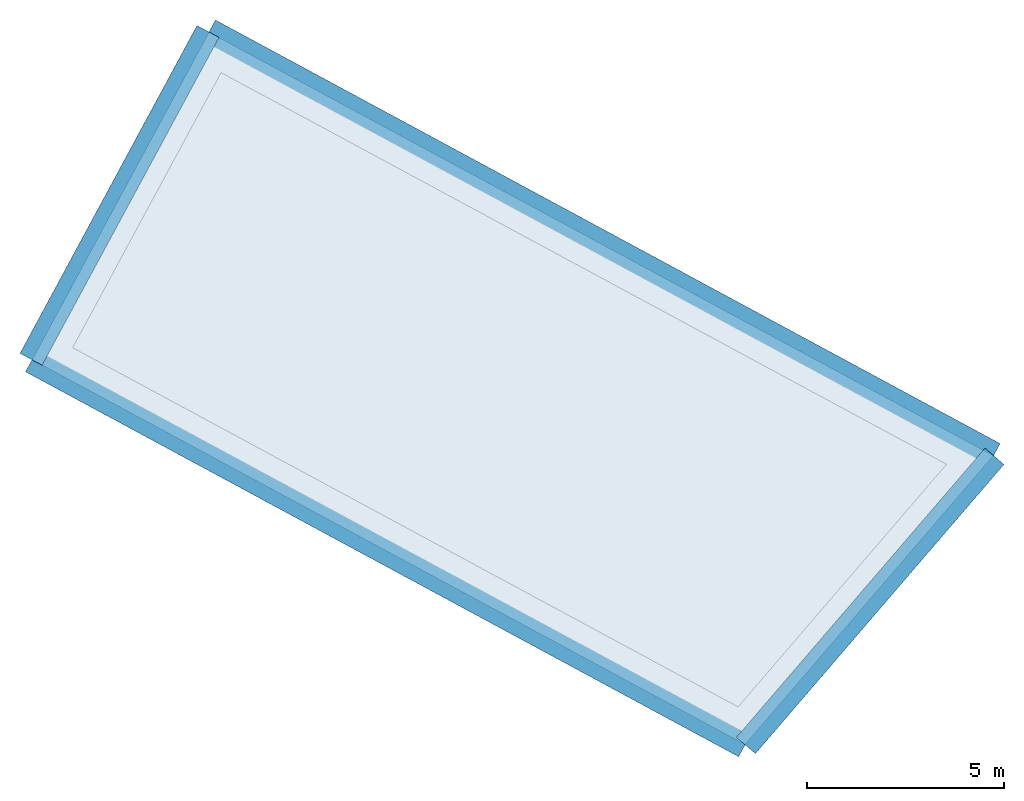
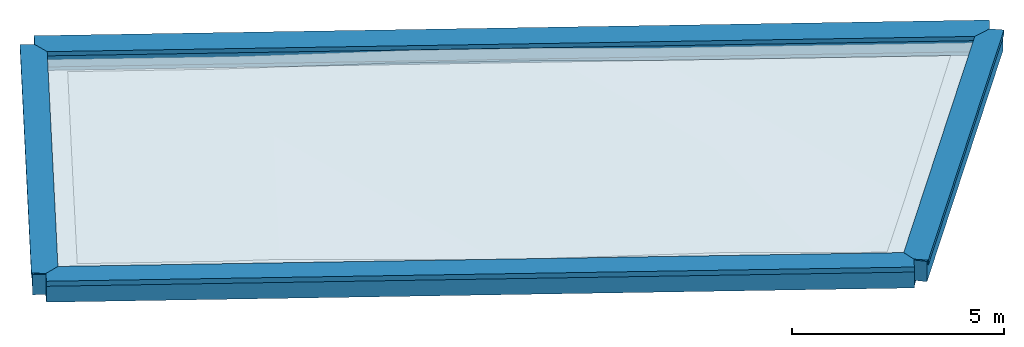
# One storey, part 1 of 3: 4 walls, 1 slab.
"""IFC2X3 building model written with IfcOpenShell, lengths in metres."""

from ifc_helpers import new_model, entity, si_unit, converted_unit, derived_unit, money_unit, direction, frame, origin_with_axes, place, context, subcontext, project, spatial, polyline, outline, composite_profile, extrude, material, material_list, layer, layer_set, layer_usage, type_object, element, save


model = new_model("IFC2X3")

# Units and contexts
model_context = context("Model", 3, precision=1e-05, world=origin_with_axes(), true_north=direction((0.0, 1.0)))
body_context = subcontext(model_context, "Body", "Model", "MODEL_VIEW")
ifc_project = project(units=[si_unit("LENGTHUNIT", "METRE"), si_unit("AREAUNIT", "SQUARE_METRE"), si_unit("VOLUMEUNIT", "CUBIC_METRE"), converted_unit("PLANEANGLEUNIT", "DEGREE", entity("IfcPlaneAngleMeasure", 0.0174532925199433), si_unit("PLANEANGLEUNIT", "RADIAN"), dimensions=[0, 0, 0, 0, 0, 0, 0]), money_unit("EUR"), converted_unit("TIMEUNIT", "Year", entity("IfcTimeMeasure", 31556926.0), si_unit("TIMEUNIT", "SECOND"), dimensions=[0, 0, 1, 0, 0, 0, 0]), si_unit("MASSUNIT", "GRAM", prefix="KILO"), si_unit("THERMODYNAMICTEMPERATUREUNIT", "DEGREE_CELSIUS"), si_unit("LUMINOUSINTENSITYUNIT", "LUMEN"), si_unit("ENERGYUNIT", "JOULE", prefix="MEGA"), derived_unit("THERMALCONDUCTANCEUNIT", [(si_unit("POWERUNIT", "WATT"), 1), (si_unit("LENGTHUNIT", "METRE"), -1), (si_unit("THERMODYNAMICTEMPERATUREUNIT", "KELVIN"), -1)]), derived_unit("SPECIFICHEATCAPACITYUNIT", [(si_unit("ENERGYUNIT", "JOULE"), 1), (si_unit("MASSUNIT", "GRAM", prefix="KILO"), -1), (si_unit("THERMODYNAMICTEMPERATUREUNIT", "KELVIN"), -1)]), derived_unit("MASSDENSITYUNIT", [(si_unit("MASSUNIT", "GRAM", prefix="KILO"), 1), (si_unit("VOLUMEUNIT", "CUBIC_METRE"), -1)])], contexts=[model_context])

# Site, building, storey
site_placement = place(None, frame((-3.949935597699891, 1.740105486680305, 0.0), z_axis=(0.0, 0.0, 1.0), x_axis=(0.8799804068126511, -0.475009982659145, 0.0)))
site = spatial("IfcSite", under=ifc_project, at=site_placement, Name="Gelände", CompositionType="ELEMENT")
building_placement = place(site_placement, origin_with_axes())
building = spatial("IfcBuilding", under=site, at=building_placement, Name="Gebäude", CompositionType="ELEMENT")
storey_placement = place(building_placement, frame((0.0, 0.0, 7.904999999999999), z_axis=(0.0, 0.0, 1.0), x_axis=(1.0, 0.0, 0.0)))
storey = spatial("IfcBuildingStorey", under=building, at=storey_placement, Name="Dachaufsicht", CompositionType="ELEMENT", Elevation=7.905)

# Slab
ifc_material_1 = material(Name="_SIWH - Beton, Stahlbeton")
ifc_layer = layer(ifc_material_1, 0.2, ventilated="UNKNOWN")
ifc_layer_set = layer_set([ifc_layer], Name="_SIWH - Beton, Stahlbeton 0.2")
ifc_layer_usage = layer_usage(ifc_layer_set, "AXIS3", "NEGATIVE", 0.2)
slab_type = type_object("IfcSlabType", Name="_SIWH - Beton, Stahlbeton 200", PredefinedType="FLOOR")
slab_placement = place(storey_placement, frame((5.397480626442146, 1.424987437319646, -0.391), z_axis=(0.0, 0.0, 1.0), x_axis=(1.0, 0.0, 0.0)))
element("IfcSlab", 1, at=slab_placement, inside=storey, type_object=slab_type, material=ifc_layer_usage, Name="Decke030", PredefinedType="FLOOR", context=body_context, shape_type="SweptSolid", body=[
    extrude(outline(polyline([(0.0, 0.0), (20.51864681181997, 0.0), (22.5788528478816, 9.43281358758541), (0.0, 9.43281358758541), (0.0, 0.0)])), origin_with_axes(), (0.0, 0.0, 1.0), 0.2),
])

# Walls
ifc_material_2 = material(Name="_SIWH - Dämmung, weich Mineralwolle")
ifc_material_3 = material(Name="_SIWH - Dämmung, hart Mineralwolle")
ifc_material_4 = material(Name="_SIWH - MW Vormauerziegel")
ifc_material_5 = material(Name="_SIWH - Luftschicht vertikal")
ifc_material_6 = material(Name="_SIWH - Holz, Bauholz")
ifc_material_7 = material(Name="_SIWH - Metall, Aluminium")
ifc_material_list = material_list([ifc_material_2, ifc_material_3, ifc_material_4, ifc_material_1, ifc_material_5, ifc_material_6, ifc_material_7])
wall_type = type_object("IfcWallType", Name="_SIWH - Attika 1.OG 635 x 625", PredefinedType="NOTDEFINED")
wall_1_placement = place(storey_placement, frame((25.91612514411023, 1.424987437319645, -0.1909999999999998), z_axis=(0.0, 0.0, 1.0), x_axis=(0.2133784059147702, 0.9769696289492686, 0.0)))
element("IfcWall", 2, at=wall_1_placement, inside=storey, type_object=wall_type, material=ifc_material_list, Name="A-Wand030", ObjectType="NOTDEFINED", context=body_context, shape_type="SweptSolid", body=[
    extrude(composite_profile([outline(polyline([(-9.761551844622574e-10, 0.4999999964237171), (-9.761551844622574e-10, 0.0), (0.1799999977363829, 0.0), (0.1799999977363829, 0.4999999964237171), (-9.761551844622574e-10, 0.4999999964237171)])), outline(polyline([(-0.2000000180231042, 0.1400000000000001), (-0.2000000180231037, 0.5000000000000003), (-9.761551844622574e-10, 0.4999999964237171), (0.1799999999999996, 0.4999999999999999), (0.1799999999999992, 0.5599999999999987), (-0.2600000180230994, 0.5599999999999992), (-0.2600000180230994, 0.1400000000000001), (-0.2000000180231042, 0.1400000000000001)])), outline(polyline([(0.1999999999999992, 0.5599999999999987), (0.1999999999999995, 0.0), (0.3149999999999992, 0.0), (0.3149999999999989, 0.5599999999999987), (0.1999999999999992, 0.5599999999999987)])), outline(polyline([(-2.525877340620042e-09, 0.4999999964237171), (-0.2000000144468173, 0.4999999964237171), (-0.2000000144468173, 0.1399999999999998), (-0.2000000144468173, 0.0), (-2.525877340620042e-09, 0.0), (-2.525877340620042e-09, 0.4999999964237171)])), outline(polyline([(0.2000000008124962, 0.5600000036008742), (0.1800000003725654, 0.5599999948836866), (0.1800000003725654, 0.4999999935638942), (0.1800000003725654, 0.0), (0.2000000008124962, 0.0), (0.2000000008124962, 0.5600000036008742)])), outline(polyline([(-0.2600000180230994, 0.5599999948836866), (0.1800000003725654, 0.5599999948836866), (0.2000000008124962, 0.5600000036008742), (0.3149999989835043, 0.5600000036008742), (0.3149999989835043, 0.5849999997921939), (-0.2600000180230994, 0.5849999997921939), (-0.2600000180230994, 0.5599999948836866)])), outline(polyline([(-0.2900000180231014, 0.602774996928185), (-0.2900000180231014, 0.4808750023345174), (-0.2702236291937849, 0.500651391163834), (-0.2716378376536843, 0.50206560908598), (-0.2880000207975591, 0.4857034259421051), (-0.2880000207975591, 0.6008437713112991), (0.3430000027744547, 0.6229287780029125), (0.3430000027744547, 0.4848284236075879), (0.3264142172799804, 0.5014142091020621), (0.3249999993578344, 0.5000000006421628), (0.344999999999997, 0.4800000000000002), (0.344999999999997, 0.6249999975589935), (-0.2900000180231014, 0.602774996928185)]))]), frame((0.0, 0.0, 0.0), z_axis=(-1.0, 0.0, 0.0), x_axis=(0.0, -1.0, 0.0)), (0.0, 0.0, -1.0), 9.655175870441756),
])
wall_2_placement = place(storey_placement, frame((27.97633118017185, 10.85780102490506, -0.1909999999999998), z_axis=(0.0, 0.0, 1.0), x_axis=(-1.0, 0.0, 0.0)))
element("IfcWall", 3, at=wall_2_placement, inside=storey, type_object=wall_type, material=ifc_material_list, Name="A-Wand031", ObjectType="NOTDEFINED", context=body_context, shape_type="SweptSolid", body=[
    extrude(composite_profile([outline(polyline([(-9.761551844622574e-10, 0.4999999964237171), (-9.761551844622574e-10, 0.0), (0.1799999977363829, 0.0), (0.1799999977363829, 0.4999999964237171), (-9.761551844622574e-10, 0.4999999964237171)])), outline(polyline([(-0.2000000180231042, 0.1400000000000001), (-0.2000000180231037, 0.5000000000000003), (-9.761551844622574e-10, 0.4999999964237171), (0.1799999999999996, 0.4999999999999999), (0.1799999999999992, 0.5599999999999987), (-0.2600000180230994, 0.5599999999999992), (-0.2600000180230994, 0.1400000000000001), (-0.2000000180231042, 0.1400000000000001)])), outline(polyline([(0.1999999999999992, 0.5599999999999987), (0.1999999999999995, 0.0), (0.3149999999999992, 0.0), (0.3149999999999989, 0.5599999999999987), (0.1999999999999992, 0.5599999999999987)])), outline(polyline([(-2.525877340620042e-09, 0.4999999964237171), (-0.2000000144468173, 0.4999999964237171), (-0.2000000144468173, 0.1399999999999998), (-0.2000000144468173, 0.0), (-2.525877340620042e-09, 0.0), (-2.525877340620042e-09, 0.4999999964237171)])), outline(polyline([(0.2000000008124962, 0.5600000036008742), (0.1800000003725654, 0.5599999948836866), (0.1800000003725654, 0.4999999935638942), (0.1800000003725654, 0.0), (0.2000000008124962, 0.0), (0.2000000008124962, 0.5600000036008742)])), outline(polyline([(-0.2600000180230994, 0.5599999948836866), (0.1800000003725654, 0.5599999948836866), (0.2000000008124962, 0.5600000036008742), (0.3149999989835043, 0.5600000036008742), (0.3149999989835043, 0.5849999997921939), (-0.2600000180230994, 0.5849999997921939), (-0.2600000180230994, 0.5599999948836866)])), outline(polyline([(-0.2900000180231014, 0.602774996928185), (-0.2900000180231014, 0.4808750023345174), (-0.2702236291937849, 0.500651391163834), (-0.2716378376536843, 0.50206560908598), (-0.2880000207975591, 0.4857034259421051), (-0.2880000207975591, 0.6008437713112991), (0.3430000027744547, 0.6229287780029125), (0.3430000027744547, 0.4848284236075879), (0.3264142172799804, 0.5014142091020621), (0.3249999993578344, 0.5000000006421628), (0.344999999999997, 0.4800000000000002), (0.344999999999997, 0.6249999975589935), (-0.2900000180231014, 0.602774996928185)]))]), frame((0.0, 0.0, 0.0), z_axis=(-1.0, 0.0, 0.0), x_axis=(0.0, -1.0, 0.0)), (0.0, 0.0, -1.0), 22.5788505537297),
])
wall_3_placement = place(storey_placement, frame((5.397480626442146, 1.424987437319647, -0.1909999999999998), z_axis=(0.0, 0.0, 1.0), x_axis=(0.0, 1.0, 0.0)))
element("IfcWall", 4, at=wall_3_placement, inside=storey, type_object=wall_type, material=ifc_material_list, Name="A-Wand033", ObjectType="NOTDEFINED", context=body_context, shape_type="SweptSolid", body=[
    extrude(composite_profile([outline(polyline([(-9.761551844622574e-10, 0.4999999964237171), (-9.761551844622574e-10, 0.0), (0.1799999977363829, 0.0), (0.1799999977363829, 0.4999999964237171), (-9.761551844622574e-10, 0.4999999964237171)])), outline(polyline([(-0.2000000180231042, 0.1400000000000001), (-0.2000000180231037, 0.5000000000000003), (-9.761551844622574e-10, 0.4999999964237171), (0.1799999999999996, 0.4999999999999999), (0.1799999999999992, 0.5599999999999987), (-0.2600000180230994, 0.5599999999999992), (-0.2600000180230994, 0.1400000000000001), (-0.2000000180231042, 0.1400000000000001)])), outline(polyline([(0.1999999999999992, 0.5599999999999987), (0.1999999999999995, 0.0), (0.3149999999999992, 0.0), (0.3149999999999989, 0.5599999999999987), (0.1999999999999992, 0.5599999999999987)])), outline(polyline([(-2.525877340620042e-09, 0.4999999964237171), (-0.2000000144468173, 0.4999999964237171), (-0.2000000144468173, 0.1399999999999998), (-0.2000000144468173, 0.0), (-2.525877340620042e-09, 0.0), (-2.525877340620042e-09, 0.4999999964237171)])), outline(polyline([(0.2000000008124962, 0.5600000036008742), (0.1800000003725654, 0.5599999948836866), (0.1800000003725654, 0.4999999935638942), (0.1800000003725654, 0.0), (0.2000000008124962, 0.0), (0.2000000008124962, 0.5600000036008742)])), outline(polyline([(-0.2600000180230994, 0.5599999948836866), (0.1800000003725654, 0.5599999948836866), (0.2000000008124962, 0.5600000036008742), (0.3149999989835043, 0.5600000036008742), (0.3149999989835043, 0.5849999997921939), (-0.2600000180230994, 0.5849999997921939), (-0.2600000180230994, 0.5599999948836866)])), outline(polyline([(-0.2900000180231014, 0.602774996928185), (-0.2900000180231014, 0.4808750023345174), (-0.2702236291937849, 0.500651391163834), (-0.2716378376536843, 0.50206560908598), (-0.2880000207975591, 0.4857034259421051), (-0.2880000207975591, 0.6008437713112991), (0.3430000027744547, 0.6229287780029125), (0.3430000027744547, 0.4848284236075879), (0.3264142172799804, 0.5014142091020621), (0.3249999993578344, 0.5000000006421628), (0.344999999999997, 0.4800000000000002), (0.344999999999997, 0.6249999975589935), (-0.2900000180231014, 0.602774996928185)]))]), frame((0.0, 0.0, 0.0), z_axis=(1.0, 0.0, 0.0), x_axis=(0.0, 1.0, 0.0)), (0.0, 0.0, 1.0), 9.432813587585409),
])
wall_4_placement = place(storey_placement, frame((5.397480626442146, 1.424987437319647, -0.1909999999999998), z_axis=(0.0, 0.0, 1.0), x_axis=(1.0, 0.0, 0.0)))
element("IfcWall", 5, at=wall_4_placement, inside=storey, type_object=wall_type, material=ifc_material_list, Name="A-Wand032", ObjectType="NOTDEFINED", context=body_context, shape_type="SweptSolid", body=[
    extrude(composite_profile([outline(polyline([(-9.761551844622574e-10, 0.4999999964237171), (-9.761551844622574e-10, 0.0), (0.1799999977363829, 0.0), (0.1799999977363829, 0.4999999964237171), (-9.761551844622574e-10, 0.4999999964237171)])), outline(polyline([(-0.2000000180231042, 0.1400000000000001), (-0.2000000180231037, 0.5000000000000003), (-9.761551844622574e-10, 0.4999999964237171), (0.1799999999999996, 0.4999999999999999), (0.1799999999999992, 0.5599999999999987), (-0.2600000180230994, 0.5599999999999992), (-0.2600000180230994, 0.1400000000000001), (-0.2000000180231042, 0.1400000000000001)])), outline(polyline([(0.1999999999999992, 0.5599999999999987), (0.1999999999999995, 0.0), (0.3149999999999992, 0.0), (0.3149999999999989, 0.5599999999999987), (0.1999999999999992, 0.5599999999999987)])), outline(polyline([(-2.525877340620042e-09, 0.4999999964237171), (-0.2000000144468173, 0.4999999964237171), (-0.2000000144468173, 0.1399999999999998), (-0.2000000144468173, 0.0), (-2.525877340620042e-09, 0.0), (-2.525877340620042e-09, 0.4999999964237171)])), outline(polyline([(0.2000000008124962, 0.5600000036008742), (0.1800000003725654, 0.5599999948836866), (0.1800000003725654, 0.4999999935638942), (0.1800000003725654, 0.0), (0.2000000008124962, 0.0), (0.2000000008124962, 0.5600000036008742)])), outline(polyline([(-0.2600000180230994, 0.5599999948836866), (0.1800000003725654, 0.5599999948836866), (0.2000000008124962, 0.5600000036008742), (0.3149999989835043, 0.5600000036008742), (0.3149999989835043, 0.5849999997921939), (-0.2600000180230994, 0.5849999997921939), (-0.2600000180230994, 0.5599999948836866)])), outline(polyline([(-0.2900000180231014, 0.602774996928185), (-0.2900000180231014, 0.4808750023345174), (-0.2702236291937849, 0.500651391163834), (-0.2716378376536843, 0.50206560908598), (-0.2880000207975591, 0.4857034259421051), (-0.2880000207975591, 0.6008437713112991), (0.3430000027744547, 0.6229287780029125), (0.3430000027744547, 0.4848284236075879), (0.3264142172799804, 0.5014142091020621), (0.3249999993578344, 0.5000000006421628), (0.344999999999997, 0.4800000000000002), (0.344999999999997, 0.6249999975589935), (-0.2900000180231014, 0.602774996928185)]))]), frame((0.0, 0.0, 0.0), z_axis=(-1.0, 0.0, 0.0), x_axis=(0.0, -1.0, 0.0)), (0.0, 0.0, -1.0), 20.51864451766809),
])

save(model, "model.ifc")
